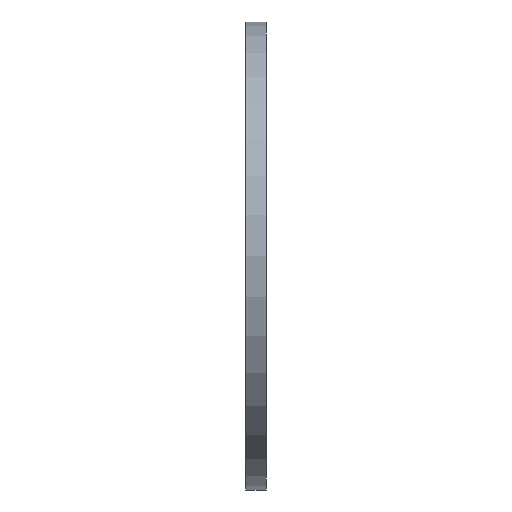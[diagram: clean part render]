
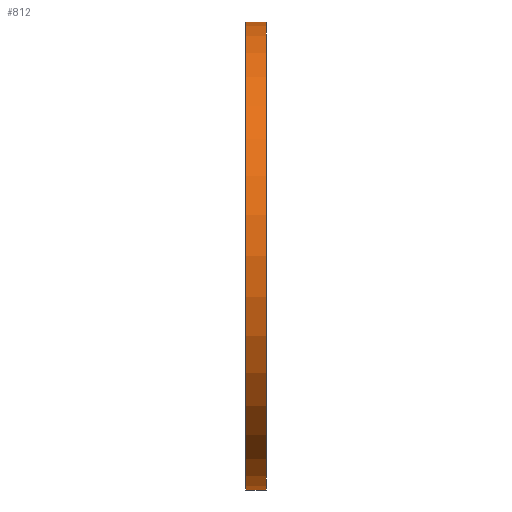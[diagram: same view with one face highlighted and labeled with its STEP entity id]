
A CAD part, left-side view. The second image highlights one B-rep face of the part: STEP entity #812.
In plain terms, the highlighted cylindrical face has radius 170 mm (diameter 340 mm), a partial arc.
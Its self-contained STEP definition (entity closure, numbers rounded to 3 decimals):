
#30 = CARTESIAN_POINT ( 'NONE',  ( 0., 0., -170. ) ) ;
#49 = DIRECTION ( 'NONE',  ( 0., 0., 1. ) ) ;
#75 = EDGE_CURVE ( 'NONE', #712, #405, #829, .T. ) ;
#117 = DIRECTION ( 'NONE',  ( 0., 0., 1. ) ) ;
#179 = AXIS2_PLACEMENT_3D ( 'NONE', #341, #319, #49 ) ;
#209 = CIRCLE ( 'NONE', #760, 170. ) ;
#214 = ORIENTED_EDGE ( 'NONE', *, *, #735, .F. ) ;
#217 = DIRECTION ( 'NONE',  ( 0., 1., 0. ) ) ;
#241 = CARTESIAN_POINT ( 'NONE',  ( 0., 0., 170. ) ) ;
#242 = VECTOR ( 'NONE', #661, 1000. ) ;
#251 = LINE ( 'NONE', #385, #242 ) ;
#319 = DIRECTION ( 'NONE',  ( 0., 1., 0. ) ) ;
#326 = CARTESIAN_POINT ( 'NONE',  ( 0., 0., 0. ) ) ;
#341 = CARTESIAN_POINT ( 'NONE',  ( 0., 38.545, 0. ) ) ;
#385 = CARTESIAN_POINT ( 'NONE',  ( 0., 38.545, -170. ) ) ;
#399 = FACE_OUTER_BOUND ( 'NONE', #888, .T. ) ;
#405 = VERTEX_POINT ( 'NONE', #598 ) ;
#409 = CYLINDRICAL_SURFACE ( 'NONE', #179, 170. ) ;
#457 = EDGE_CURVE ( 'NONE', #682, #712, #558, .T. ) ;
#461 = CARTESIAN_POINT ( 'NONE',  ( 0., 15., 0. ) ) ;
#465 = ORIENTED_EDGE ( 'NONE', *, *, #457, .T. ) ;
#474 = EDGE_CURVE ( 'NONE', #654, #405, #209, .T. ) ;
#489 = ORIENTED_EDGE ( 'NONE', *, *, #75, .T. ) ;
#503 = CARTESIAN_POINT ( 'NONE',  ( 0., 38.545, 170. ) ) ;
#558 = CIRCLE ( 'NONE', #691, 170. ) ;
#598 = CARTESIAN_POINT ( 'NONE',  ( 0., 15., 170. ) ) ;
#654 = VERTEX_POINT ( 'NONE', #655 ) ;
#655 = CARTESIAN_POINT ( 'NONE',  ( 0., 15., -170. ) ) ;
#661 = DIRECTION ( 'NONE',  ( 0., 1., 0. ) ) ;
#682 = VERTEX_POINT ( 'NONE', #30 ) ;
#691 = AXIS2_PLACEMENT_3D ( 'NONE', #326, #798, #807 ) ;
#712 = VERTEX_POINT ( 'NONE', #241 ) ;
#713 = ORIENTED_EDGE ( 'NONE', *, *, #474, .F. ) ;
#730 = DIRECTION ( 'NONE',  ( 0., 1., 0. ) ) ;
#735 = EDGE_CURVE ( 'NONE', #682, #654, #251, .T. ) ;
#760 = AXIS2_PLACEMENT_3D ( 'NONE', #461, #730, #117 ) ;
#798 = DIRECTION ( 'NONE',  ( 0., 1., 0. ) ) ;
#807 = DIRECTION ( 'NONE',  ( 0., 0., 1. ) ) ;
#812 = ADVANCED_FACE ( 'NONE', ( #399 ), #409, .T. ) ;
#829 = LINE ( 'NONE', #503, #852 ) ;
#852 = VECTOR ( 'NONE', #217, 1000. ) ;
#888 = EDGE_LOOP ( 'NONE', ( #214, #465, #489, #713 ) ) ;
